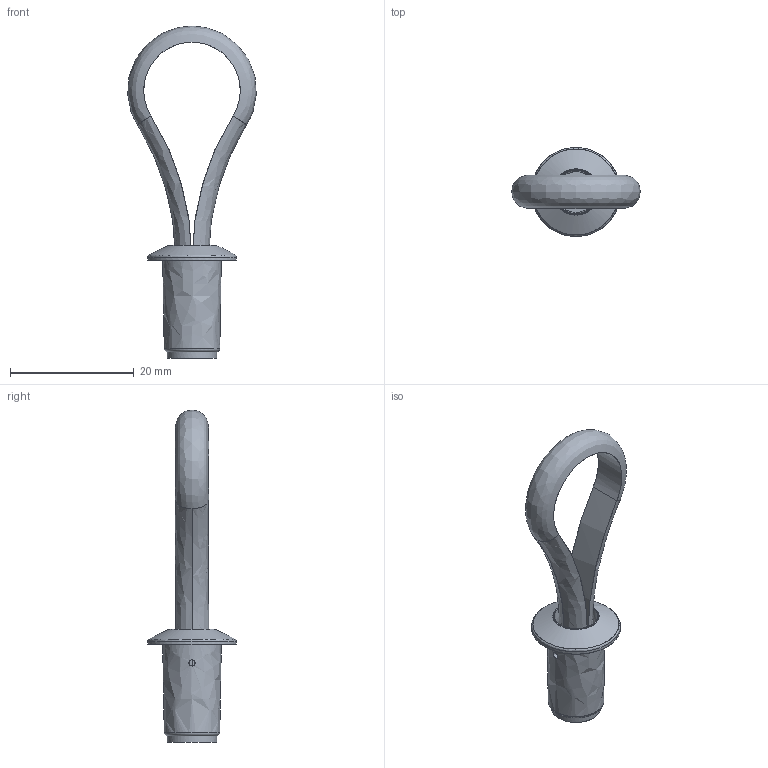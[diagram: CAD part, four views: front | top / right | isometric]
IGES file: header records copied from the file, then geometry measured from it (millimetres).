
Start section: C
Global section: file name: 8304-36-18.igs; native system: By Siemens PLM Incorporated; preprocessor: XPlus GENERIC/IGES 16.0.42; author: Author; organization: Title; date: 20230831.115531; units: millimetre
Bounding box: 20.81 x 14.39 x 53.72 mm (x, y, z)
Surface area: 2516.4 mm2 (no closed solid volume)
Topology: 0 solids, 0 shells, 31 faces, 158 edges, 158 vertices
Faces by surface type: bspline 31
